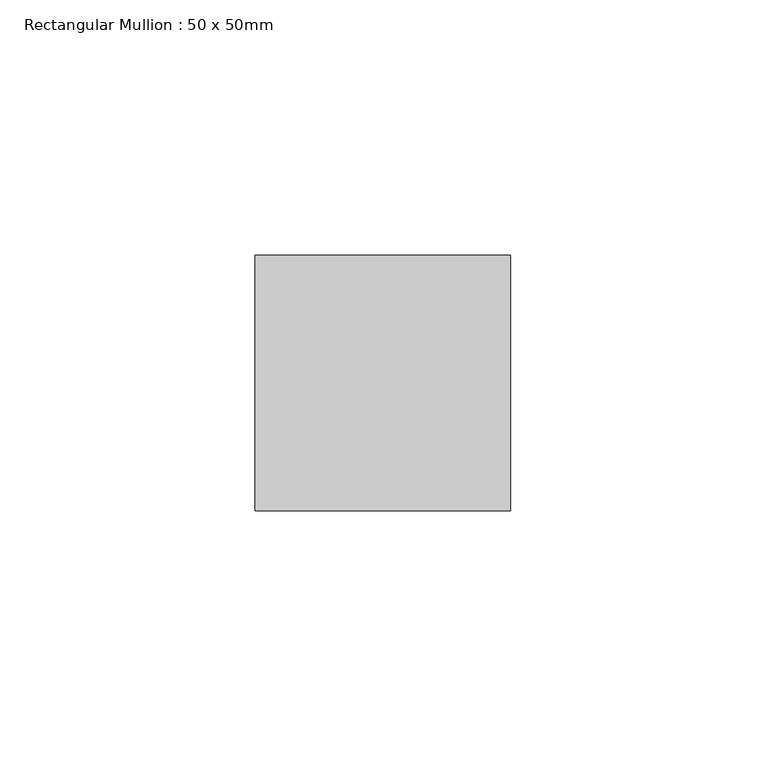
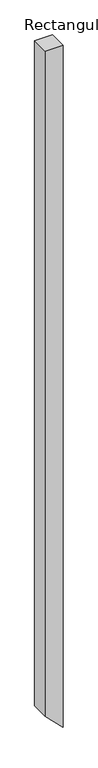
"""IFC4 building model written with IfcOpenShell, lengths in millimetres: member geometry, Rectangular Mullion : 50 x 50mm."""

from ifc_helpers import new_model, si_unit, frame, origin, place, context, project, spatial, polyline, outline, extrude, source, transform, mapped, element, save


def rectangular_mullion_50_x_50mm_a40bebd4(model_context):
    return source(origin(), model_context, "Body", "SweptSolid", [
        extrude(outline(polyline([(0.0, 0.0), (0.0, -50.0), (-1949.9999964, -50.0), (-2000.0, 0.0), (0.0, 0.0)])), frame((0.0, 0.0, 0.0), z_axis=(0.0, 1.0, 0.0), x_axis=(0.0, 0.0, 1.0)), (0.0, 0.0, 1.0), 50.0),
    ])


if __name__ == "__main__":
    model = new_model("IFC4")
    model_context = context("Model", 3, world=origin())
    ifc_project = project(units=[si_unit("LENGTHUNIT", "METRE", prefix="MILLI")], contexts=[model_context])
    site = spatial("IfcSite", under=ifc_project)
    building = spatial("IfcBuilding", under=site)
    placement = place(None, origin())
    rectangular_mullion_50_x_50mm_shape = rectangular_mullion_50_x_50mm_a40bebd4(model_context)
    element("IfcMember", 1, ObjectType="Rectangular Mullion : 50 x 50mm", at=placement, inside=building, context=model_context, shape_type="MappedRepresentation", body=[
        mapped(rectangular_mullion_50_x_50mm_shape, transform((0.0, 0.0, 0.0), x_axis=(1.0, 0.0, 0.0), y_axis=(0.0, 1.0, 0.0), z_axis=(0.0, 0.0, 1.0))),
    ])
    save(model, "model.ifc")
